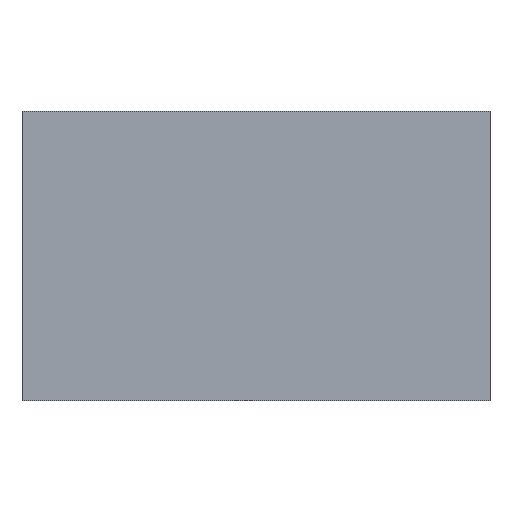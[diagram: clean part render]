
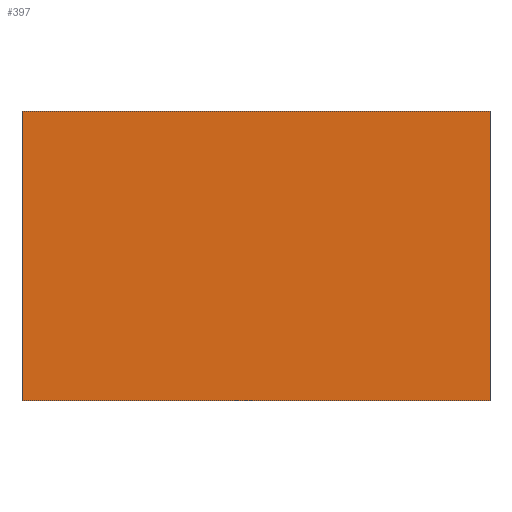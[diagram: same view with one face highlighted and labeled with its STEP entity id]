
A CAD part, top view. The second image highlights one B-rep face of the part: STEP entity #397.
In plain terms, the highlighted planar face has unit normal (0, 0, 1).
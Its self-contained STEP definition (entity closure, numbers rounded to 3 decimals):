
#83 = VERTEX_POINT('',#84);
#84 = CARTESIAN_POINT('',(-2.54,14.859,3.25));
#91 = PLANE('',#92);
#92 = AXIS2_PLACEMENT_3D('',#93,#94,#95);
#93 = CARTESIAN_POINT('',(-2.54,14.859,0.));
#94 = DIRECTION('',(0.,1.,0.));
#95 = DIRECTION('',(1.,0.,0.));
#103 = PLANE('',#104);
#104 = AXIS2_PLACEMENT_3D('',#105,#106,#107);
#105 = CARTESIAN_POINT('',(-2.54,-2.413,0.));
#106 = DIRECTION('',(-1.,0.,0.));
#107 = DIRECTION('',(0.,1.,0.));
#115 = EDGE_CURVE('',#83,#116,#118,.T.);
#116 = VERTEX_POINT('',#117);
#117 = CARTESIAN_POINT('',(25.4,14.859,3.25));
#118 = SURFACE_CURVE('',#119,(#123,#130),.PCURVE_S1.);
#119 = LINE('',#120,#121);
#120 = CARTESIAN_POINT('',(-2.54,14.859,3.25));
#121 = VECTOR('',#122,1.);
#122 = DIRECTION('',(1.,0.,0.));
#123 = PCURVE('',#91,#124);
#124 = DEFINITIONAL_REPRESENTATION('',(#125),#129);
#125 = LINE('',#126,#127);
#126 = CARTESIAN_POINT('',(0.,-3.25));
#127 = VECTOR('',#128,1.);
#128 = DIRECTION('',(1.,0.));
#129 = ( GEOMETRIC_REPRESENTATION_CONTEXT(2) 
PARAMETRIC_REPRESENTATION_CONTEXT() REPRESENTATION_CONTEXT('2D SPACE',''
  ) );
#130 = PCURVE('',#131,#136);
#131 = PLANE('',#132);
#132 = AXIS2_PLACEMENT_3D('',#133,#134,#135);
#133 = CARTESIAN_POINT('',(11.43,6.223,3.25));
#134 = DIRECTION('',(0.,0.,-1.));
#135 = DIRECTION('',(0.,-1.,0.));
#136 = DEFINITIONAL_REPRESENTATION('',(#137),#141);
#137 = LINE('',#138,#139);
#138 = CARTESIAN_POINT('',(-8.636,13.97));
#139 = VECTOR('',#140,1.);
#140 = DIRECTION('',(0.,-1.));
#141 = ( GEOMETRIC_REPRESENTATION_CONTEXT(2) 
PARAMETRIC_REPRESENTATION_CONTEXT() REPRESENTATION_CONTEXT('2D SPACE',''
  ) );
#159 = PLANE('',#160);
#160 = AXIS2_PLACEMENT_3D('',#161,#162,#163);
#161 = CARTESIAN_POINT('',(25.4,14.859,0.));
#162 = DIRECTION('',(1.,0.,-0.));
#163 = DIRECTION('',(0.,-1.,0.));
#201 = EDGE_CURVE('',#116,#202,#204,.T.);
#202 = VERTEX_POINT('',#203);
#203 = CARTESIAN_POINT('',(25.4,-2.413,3.25));
#204 = SURFACE_CURVE('',#205,(#209,#216),.PCURVE_S1.);
#205 = LINE('',#206,#207);
#206 = CARTESIAN_POINT('',(25.4,14.859,3.25));
#207 = VECTOR('',#208,1.);
#208 = DIRECTION('',(0.,-1.,0.));
#209 = PCURVE('',#159,#210);
#210 = DEFINITIONAL_REPRESENTATION('',(#211),#215);
#211 = LINE('',#212,#213);
#212 = CARTESIAN_POINT('',(0.,-3.25));
#213 = VECTOR('',#214,1.);
#214 = DIRECTION('',(1.,0.));
#215 = ( GEOMETRIC_REPRESENTATION_CONTEXT(2) 
PARAMETRIC_REPRESENTATION_CONTEXT() REPRESENTATION_CONTEXT('2D SPACE',''
  ) );
#216 = PCURVE('',#131,#217);
#217 = DEFINITIONAL_REPRESENTATION('',(#218),#222);
#218 = LINE('',#219,#220);
#219 = CARTESIAN_POINT('',(-8.636,-13.97));
#220 = VECTOR('',#221,1.);
#221 = DIRECTION('',(1.,0.));
#222 = ( GEOMETRIC_REPRESENTATION_CONTEXT(2) 
PARAMETRIC_REPRESENTATION_CONTEXT() REPRESENTATION_CONTEXT('2D SPACE',''
  ) );
#240 = PLANE('',#241);
#241 = AXIS2_PLACEMENT_3D('',#242,#243,#244);
#242 = CARTESIAN_POINT('',(25.4,-2.413,0.));
#243 = DIRECTION('',(0.,-1.,0.));
#244 = DIRECTION('',(-1.,0.,0.));
#277 = EDGE_CURVE('',#202,#278,#280,.T.);
#278 = VERTEX_POINT('',#279);
#279 = CARTESIAN_POINT('',(-2.54,-2.413,3.25));
#280 = SURFACE_CURVE('',#281,(#285,#292),.PCURVE_S1.);
#281 = LINE('',#282,#283);
#282 = CARTESIAN_POINT('',(25.4,-2.413,3.25));
#283 = VECTOR('',#284,1.);
#284 = DIRECTION('',(-1.,0.,0.));
#285 = PCURVE('',#240,#286);
#286 = DEFINITIONAL_REPRESENTATION('',(#287),#291);
#287 = LINE('',#288,#289);
#288 = CARTESIAN_POINT('',(0.,-3.25));
#289 = VECTOR('',#290,1.);
#290 = DIRECTION('',(1.,0.));
#291 = ( GEOMETRIC_REPRESENTATION_CONTEXT(2) 
PARAMETRIC_REPRESENTATION_CONTEXT() REPRESENTATION_CONTEXT('2D SPACE',''
  ) );
#292 = PCURVE('',#131,#293);
#293 = DEFINITIONAL_REPRESENTATION('',(#294),#298);
#294 = LINE('',#295,#296);
#295 = CARTESIAN_POINT('',(8.636,-13.97));
#296 = VECTOR('',#297,1.);
#297 = DIRECTION('',(0.,1.));
#298 = ( GEOMETRIC_REPRESENTATION_CONTEXT(2) 
PARAMETRIC_REPRESENTATION_CONTEXT() REPRESENTATION_CONTEXT('2D SPACE',''
  ) );
#348 = EDGE_CURVE('',#278,#83,#349,.T.);
#349 = SURFACE_CURVE('',#350,(#354,#361),.PCURVE_S1.);
#350 = LINE('',#351,#352);
#351 = CARTESIAN_POINT('',(-2.54,-2.413,3.25));
#352 = VECTOR('',#353,1.);
#353 = DIRECTION('',(0.,1.,0.));
#354 = PCURVE('',#103,#355);
#355 = DEFINITIONAL_REPRESENTATION('',(#356),#360);
#356 = LINE('',#357,#358);
#357 = CARTESIAN_POINT('',(0.,-3.25));
#358 = VECTOR('',#359,1.);
#359 = DIRECTION('',(1.,0.));
#360 = ( GEOMETRIC_REPRESENTATION_CONTEXT(2) 
PARAMETRIC_REPRESENTATION_CONTEXT() REPRESENTATION_CONTEXT('2D SPACE',''
  ) );
#361 = PCURVE('',#131,#362);
#362 = DEFINITIONAL_REPRESENTATION('',(#363),#367);
#363 = LINE('',#364,#365);
#364 = CARTESIAN_POINT('',(8.636,13.97));
#365 = VECTOR('',#366,1.);
#366 = DIRECTION('',(-1.,0.));
#367 = ( GEOMETRIC_REPRESENTATION_CONTEXT(2) 
PARAMETRIC_REPRESENTATION_CONTEXT() REPRESENTATION_CONTEXT('2D SPACE',''
  ) );
#397 = ADVANCED_FACE('',(#398),#131,.F.);
#398 = FACE_BOUND('',#399,.F.);
#399 = EDGE_LOOP('',(#400,#401,#402,#403));
#400 = ORIENTED_EDGE('',*,*,#115,.T.);
#401 = ORIENTED_EDGE('',*,*,#201,.T.);
#402 = ORIENTED_EDGE('',*,*,#277,.T.);
#403 = ORIENTED_EDGE('',*,*,#348,.T.);
